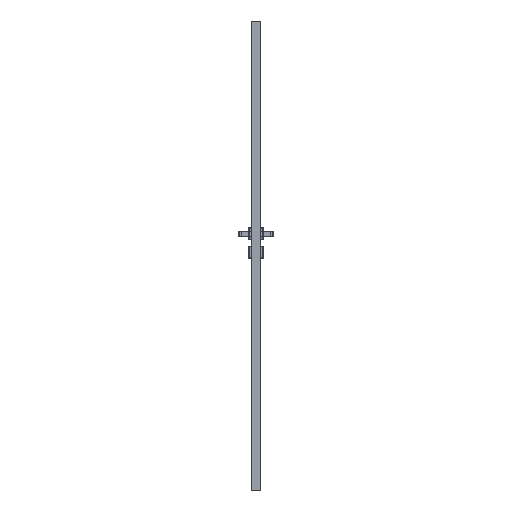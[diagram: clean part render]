
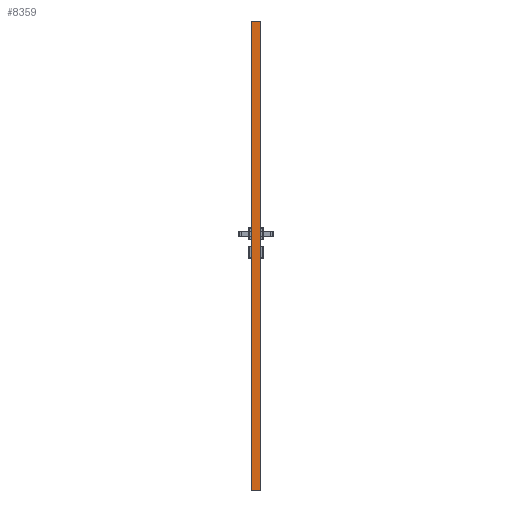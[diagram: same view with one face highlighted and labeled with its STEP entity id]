
A CAD part, left-side view. The second image highlights one B-rep face of the part: STEP entity #8359.
In plain terms, the highlighted planar face has unit normal (-1, 0, 0).
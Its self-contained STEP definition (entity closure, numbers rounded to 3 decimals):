
#8359=ADVANCED_FACE('',(#14137),#12065,.F.);
#12065=PLANE('',#71726);
#14137=FACE_OUTER_BOUND('',#18221,.T.);
#18221=EDGE_LOOP('',(#24347,#24348,#24349,#24350,#24351,#24352));
#24347=ORIENTED_EDGE('',*,*,#50626,.T.);
#24348=ORIENTED_EDGE('',*,*,#50638,.T.);
#24349=ORIENTED_EDGE('',*,*,#50647,.T.);
#24350=ORIENTED_EDGE('',*,*,#50648,.T.);
#24351=ORIENTED_EDGE('',*,*,#50597,.F.);
#24352=ORIENTED_EDGE('',*,*,#50649,.F.);
#43505=VERTEX_POINT('',#105517);
#43506=VERTEX_POINT('',#105519);
#43532=VERTEX_POINT('',#105578);
#43534=VERTEX_POINT('',#105582);
#43544=VERTEX_POINT('',#105605);
#43550=VERTEX_POINT('',#105623);
#50597=EDGE_CURVE('',#43505,#43506,#60477,.T.);
#50626=EDGE_CURVE('',#43532,#43534,#60506,.T.);
#50638=EDGE_CURVE('',#43534,#43544,#60513,.T.);
#50647=EDGE_CURVE('',#43544,#43550,#60519,.T.);
#50648=EDGE_CURVE('',#43550,#43506,#60520,.T.);
#50649=EDGE_CURVE('',#43532,#43505,#60521,.T.);
#60477=LINE('',#105518,#65967);
#60506=LINE('',#105583,#65996);
#60513=LINE('',#105606,#66003);
#60519=LINE('',#105622,#66009);
#60520=LINE('',#105624,#66010);
#60521=LINE('',#105625,#66011);
#65967=VECTOR('',#80482,1.);
#65996=VECTOR('',#80525,1.);
#66003=VECTOR('',#80544,1.);
#66009=VECTOR('',#80560,1.);
#66010=VECTOR('',#80561,1.);
#66011=VECTOR('',#80562,1.);
#71726=AXIS2_PLACEMENT_3D('',#105626,#80563,#80564);
#80482=DIRECTION('',(0.,0.,-1.));
#80525=DIRECTION('',(0.,0.,-1.));
#80544=DIRECTION('',(0.,-0.707,-0.707));
#80560=DIRECTION('',(0.,-1.,0.));
#80561=DIRECTION('',(0.,-0.707,0.707));
#80562=DIRECTION('',(0.,-1.,0.));
#80563=DIRECTION('',(1.,0.,0.));
#80564=DIRECTION('',(0.,1.,0.));
#105517=CARTESIAN_POINT('',(-309.,-39.3,2017.));
#105518=CARTESIAN_POINT('',(-309.,-39.3,2017.));
#105519=CARTESIAN_POINT('',(-309.,-39.3,2.));
#105578=CARTESIAN_POINT('',(-309.,0.,2017.));
#105582=CARTESIAN_POINT('',(-309.,0.,2.));
#105583=CARTESIAN_POINT('',(-309.,0.,2017.));
#105605=CARTESIAN_POINT('',(-309.,-2.,0.));
#105606=CARTESIAN_POINT('',(-309.,0.,2.));
#105622=CARTESIAN_POINT('',(-309.,0.,0.));
#105623=CARTESIAN_POINT('',(-309.,-37.3,0.));
#105624=CARTESIAN_POINT('',(-309.,-39.3,2.));
#105625=CARTESIAN_POINT('',(-309.,0.,2017.));
#105626=CARTESIAN_POINT('',(-309.,0.,2017.));
